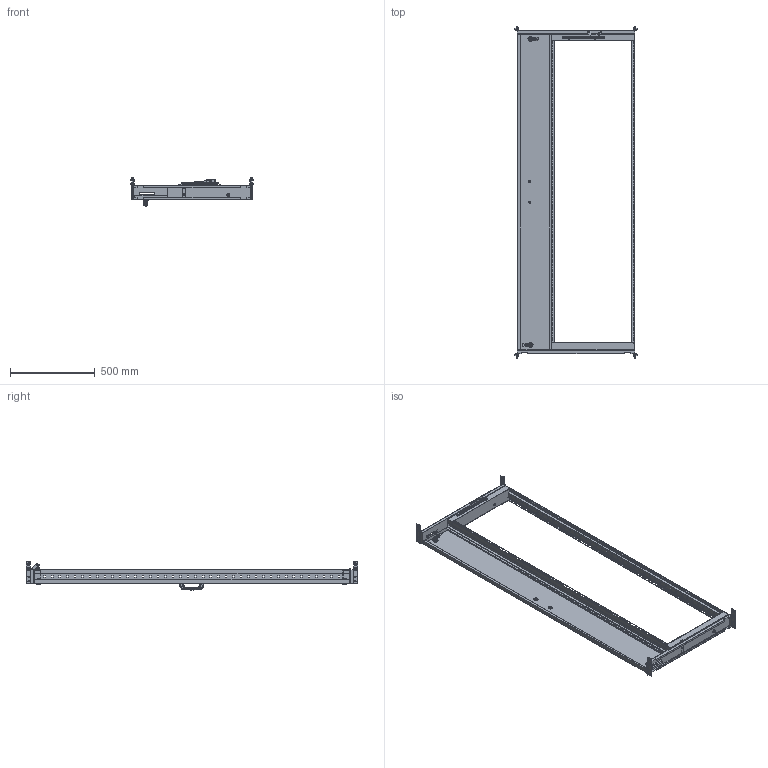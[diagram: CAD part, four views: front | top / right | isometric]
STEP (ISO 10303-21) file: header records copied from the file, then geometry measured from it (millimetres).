
FILE_DESCRIPTION(('Open CASCADE Model'),'2;1');
FILE_NAME('Open CASCADE Shape Model','2025-03-20T10:46:59',('Author'),( 'Open CASCADE'),'Open CASCADE STEP processor 7.8','Open CASCADE 7.8' ,'Unknown');
FILE_SCHEMA(('AUTOMOTIVE_DESIGN { 1 0 10303 214 1 1 1 1 }'));
Length unit declared in the file: millimetre
Products named in the file (33): Compound1; Compound2; Solid1; Solid2; Solid3; Compound3; Solid4; Solid5; Solid6; Solid7; Compound4; Solid8; Solid9; Solid10; Solid11; Solid12; Solid13; Solid14; Solid15; Solid16; Solid17; Solid18; Solid19; Solid20; Solid21; Solid22; Solid23; Solid24; Compound5; Solid25; Solid26; Solid27; Solid28
Assembly tree (54 placements, depth 3):
  Compound1
    Compound2
      Solid1
      Solid2  x2
      Solid3
    Compound3
      Solid4
      Solid2  x2
      Solid3
    Solid5  x2
    Solid6  x2
    Solid7
    Compound4
      Solid8  x2
      Solid9
      Solid10  x2
      Solid11
      Solid12
      Solid13  x2
    Solid14
    Solid15  x2
    Solid16  x2
    Solid17
    Solid18
    Solid19
    Solid20
    Solid21
    Solid22  x2
    Solid23  x4
    Solid24  x8
    Compound5
      Solid25
      Solid26
    Solid27
    Solid28
Bounding box: 726 x 1955 x 165.5 mm (x, y, z)
Volume: 2338792.2 mm3; surface area: 3005388.9 mm2
Topology: 52 solids, 72 shells, 6037 faces, 16940 edges, 10981 vertices
Faces by surface type: plane 3916, cylinder 728, bspline 672, cone 467, torus 176, sphere 78
Entity records: 144223 total; most frequent: CARTESIAN_POINT 52508, ORIENTED_EDGE 20198, DIRECTION 16375, EDGE_CURVE 10278, LINE 6761, VECTOR 6761, VERTEX_POINT 6643, AXIS2_PLACEMENT_3D 4807
